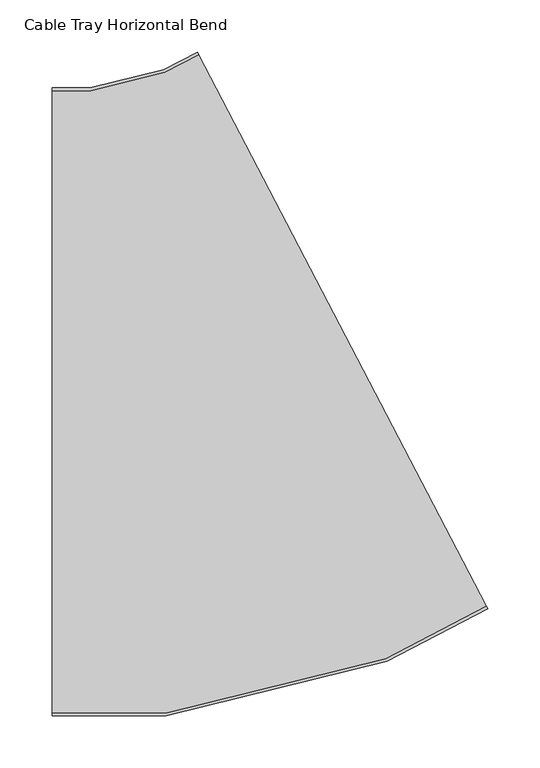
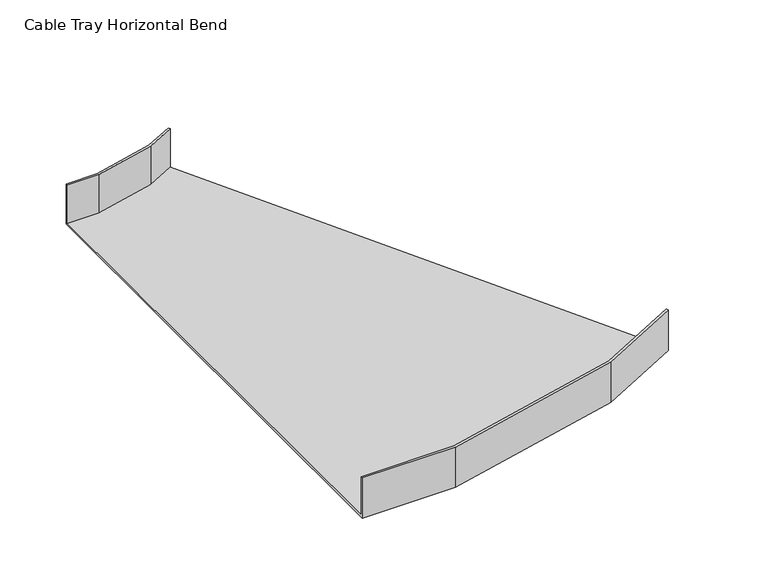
"""IFC4 building model written with IfcOpenShell, lengths in millimetres: cable carrier fitting geometry, Cable Tray Horizontal Bend : ELEC_SUB_CT_N2402."""

from ifc_helpers import new_model, si_unit, origin, place, context, project, spatial, faceted_brep, source, transform, mapped, element, save


def cable_tray_horizontal_bend_bddb0f2c(model_context):
    return source(origin(), model_context, "Body", "Brep", [
        faceted_brep([(-147.2236293, -300.0, -25.0), (-147.2236293, -300.0, 25.0), (-147.2236293, -297.46, 25.0), (-147.2236293, -297.46, -22.46), (-147.2236293, 297.46, -22.46), (-147.2236293, 297.46, 25.0), (-147.2236293, 300.0, 25.0), (-147.2236293, 300.0, -25.0), (269.3653645, -197.7804273, -25.0), (-8.3606314, 334.0731909, -25.0), (-8.3606314, 334.0731909, 25.0), (-7.1849247, 331.8216772, 25.0), (-7.1849247, 331.8216772, -22.46), (268.1896578, -195.5289137, -22.46), (268.1896578, -195.5289137, 25.0), (269.3653645, -197.7804273, 25.0), (-38.4196826, -300.0, -25.0), (-38.4196826, -300.0, 25.0), (172.9190766, -248.1432347, 25.0), (172.0155628, -245.7495861, 25.0), (-38.7267515, -297.46, 25.0), (-38.7267515, -297.46, -22.46), (172.0155628, -245.7495861, -22.46), (-39.6058801, 314.8919397, -22.46), (-110.6485782, 297.46, -22.46), (-110.6485782, 297.46, 25.0), (-39.6058801, 314.8919397, 25.0), (-40.509394, 317.2855884, 25.0), (-110.9556471, 300.0, 25.0), (-110.9556471, 300.0, -25.0), (-40.509394, 317.2855884, -25.0), (172.9190766, -248.1432347, -25.0)], [[[0, 1, 2, 3, 4, 5, 6, 7]], [[8, 9, 10, 11, 12, 13, 14, 15]], [[1, 0, 16, 17]], [[2, 1, 17, 18, 15, 14, 19, 20]], [[3, 2, 20, 21]], [[4, 3, 21, 22, 13, 12, 23, 24]], [[5, 4, 24, 25]], [[6, 5, 25, 26, 11, 10, 27, 28]], [[7, 6, 28, 29]], [[0, 7, 29, 30, 9, 8, 31, 16]], [[17, 16, 31, 18]], [[21, 20, 19, 22]], [[25, 24, 23, 26]], [[29, 28, 27, 30]], [[18, 31, 8, 15]], [[22, 19, 14, 13]], [[26, 23, 12, 11]], [[30, 27, 10, 9]]]),
    ])


if __name__ == "__main__":
    model = new_model("IFC4")
    model_context = context("Model", 3, world=origin())
    ifc_project = project(units=[si_unit("LENGTHUNIT", "METRE", prefix="MILLI")], contexts=[model_context])
    site = spatial("IfcSite", under=ifc_project)
    building = spatial("IfcBuilding", under=site)
    placement = place(None, origin())
    cable_tray_horizontal_bend_shape = cable_tray_horizontal_bend_bddb0f2c(model_context)
    element("IfcCableCarrierFitting", 1, ObjectType="Cable Tray Horizontal Bend : ELEC_SUB_CT_N2402", at=placement, inside=building, context=model_context, shape_type="MappedRepresentation", body=[
        mapped(cable_tray_horizontal_bend_shape, transform((0.0, 0.0, 0.0), x_axis=(1.0, 0.0, 0.0), y_axis=(0.0, 1.0, 0.0), z_axis=(0.0, 0.0, 1.0))),
    ])
    save(model, "model.ifc")
